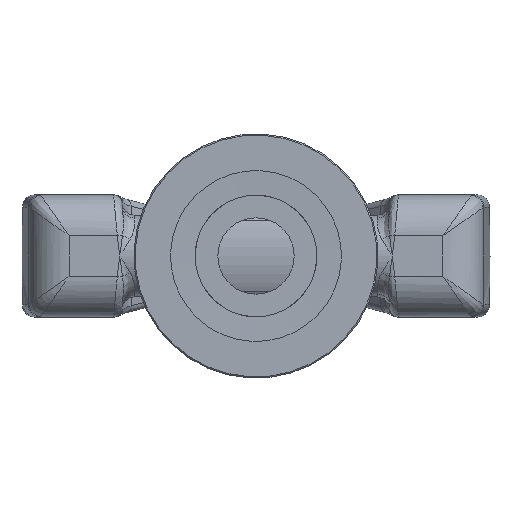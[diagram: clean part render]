
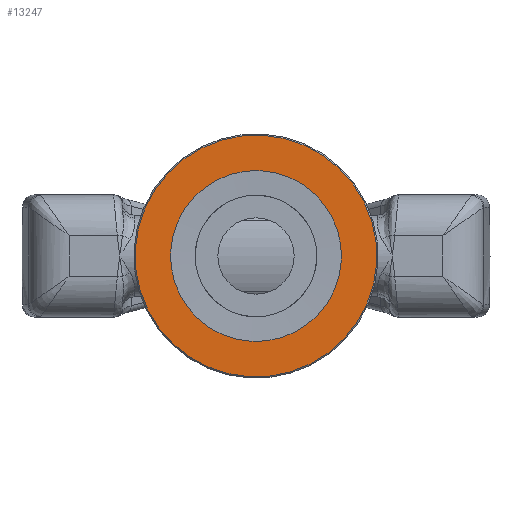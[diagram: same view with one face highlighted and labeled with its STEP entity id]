
A CAD part, front view. The second image highlights one B-rep face of the part: STEP entity #13247.
In plain terms, the highlighted planar face has unit normal (0, -1, 0) as drawn and (0, 0, -1) by its records, which use the part's own axes.
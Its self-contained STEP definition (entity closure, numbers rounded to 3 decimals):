
#259=FACE_BOUND('',#4160,.T.);
#648=PLANE('',#14271);
#3329=FACE_OUTER_BOUND('',#4159,.T.);
#4159=EDGE_LOOP('',(#12461));
#4160=EDGE_LOOP('',(#12462));
#4511=CIRCLE('',#14268,29.7);
#4513=CIRCLE('',#14272,21.);
#6495=VERTEX_POINT('',#44629);
#6497=VERTEX_POINT('',#44635);
#8487=EDGE_CURVE('',#6495,#6495,#4511,.T.);
#8489=EDGE_CURVE('',#6497,#6497,#4513,.T.);
#12461=ORIENTED_EDGE('',*,*,#8487,.F.);
#12462=ORIENTED_EDGE('',*,*,#8489,.F.);
#13247=ADVANCED_FACE('',(#3329,#259),#648,.F.);
#14268=AXIS2_PLACEMENT_3D('',#44630,#16883,#16884);
#14271=AXIS2_PLACEMENT_3D('',#44634,#16889,#16890);
#14272=AXIS2_PLACEMENT_3D('',#44636,#16891,#16892);
#16883=DIRECTION('center_axis',(0.,0.,1.));
#16884=DIRECTION('ref_axis',(-1.,0.,0.));
#16889=DIRECTION('center_axis',(0.,0.,1.));
#16890=DIRECTION('ref_axis',(1.,0.,0.));
#16891=DIRECTION('center_axis',(0.,0.,-1.));
#16892=DIRECTION('ref_axis',(-1.,0.,0.));
#44629=CARTESIAN_POINT('',(29.7,0.,0.));
#44630=CARTESIAN_POINT('Origin',(0.,0.,0.));
#44634=CARTESIAN_POINT('Origin',(0.,0.,0.));
#44635=CARTESIAN_POINT('',(21.,0.,0.));
#44636=CARTESIAN_POINT('Origin',(0.,0.,0.));
